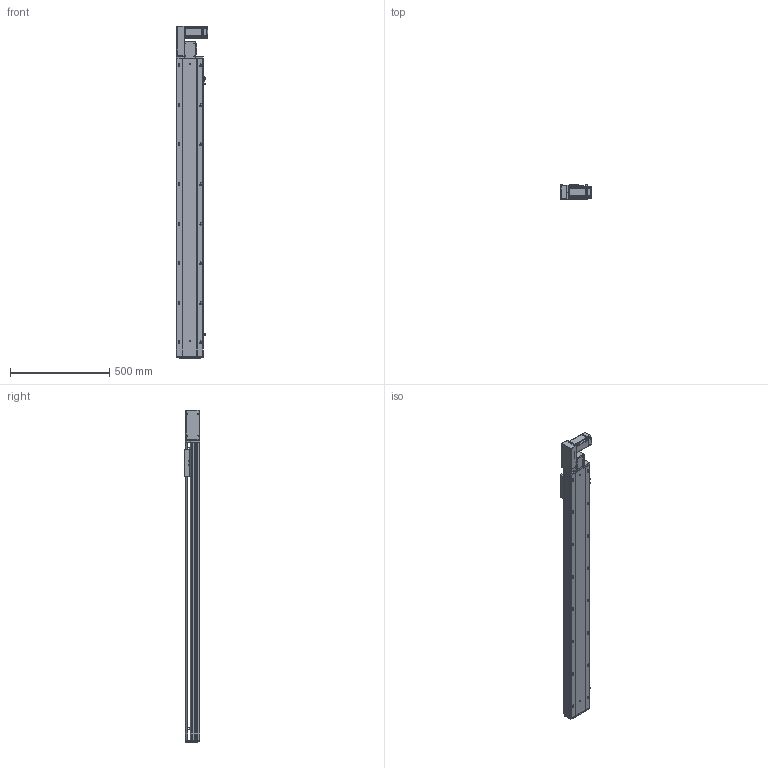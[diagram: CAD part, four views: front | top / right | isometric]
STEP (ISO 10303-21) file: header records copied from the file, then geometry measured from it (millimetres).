
FILE_DESCRIPTION (( 'STEP AP203' ), '1' );
FILE_NAME ('RY140-T-300-LK.SLDASM_1250.step', '2021-03-01T06:35:55', ( '盈信电脑' ), ( '东莞市道滘镇水果街19号' ), 'SwSTEP 2.0', 'SolidWorks 2012', '' );
FILE_SCHEMA (( 'CONFIG_CONTROL_DESIGN' ));
Products named in the file (18): RY140-T-300-LK.SLDASM_1250; RY120-T蹟翐M4; 滅袉蝶18-10; RY140-T萇儂欶; RY140-T翋肮謫裔啣; RY120-T主同步轮轴承压盖; 侂狟400W侜督萇儂; 15; RY120-T肮祭湍揤踡輸1; RY120-T肮祭湍揤踡輸2; RY140-T萇儂假蚾啣; RY140-T翋肮祭謫盓傅釱; 覜茼ん672; RY120外置感应片(140共用）; RY140綴裔啣; RY140肮祭謫臏賑輸; RY140-T-300-DL倰第奻裔啣_1250; RY140-T-300-DL倰第菁釱_1250
Assembly tree (23 placements, depth 3):
  RY140-T-300-LK.SLDASM_1250
    RY140-T-300-DL倰第菁釱_1250
    RY140肮祭謫臏賑輸
    RY140-T-300-DL倰第奻裔啣_1250
    RY140綴裔啣
    覜茼ん672  x3
    RY120外置感应片(140共用）
    RY120-T肮祭湍揤踡輸2
    RY120-T肮祭湍揤踡輸1
    RY140-T翋肮祭謫盓傅釱
    RY140-T萇儂假蚾啣
    侂狟400W侜督萇儂
      15
    RY120-T主同步轮轴承压盖
    RY120-T蹟翐M4  x4
    RY140-T萇儂欶
    滅袉蝶18-10  x2
    RY140-T翋肮謫裔啣
Bounding box: 157 x 78 x 1676.5 mm (x, y, z)
Volume: 4595518.7 mm3; surface area: 1768437.9 mm2
Topology: 22 solids, 22 shells, 2719 faces, 7437 edges, 4758 vertices
Faces by surface type: plane 1381, cylinder 1000, cone 238, bspline 100
Entity records: 85825 total; most frequent: CARTESIAN_POINT 20873, ORIENTED_EDGE 13322, DIRECTION 12709, EDGE_CURVE 6661, VERTEX_POINT 4357, VECTOR 4253, LINE 4253, AXIS2_PLACEMENT_3D 4228
